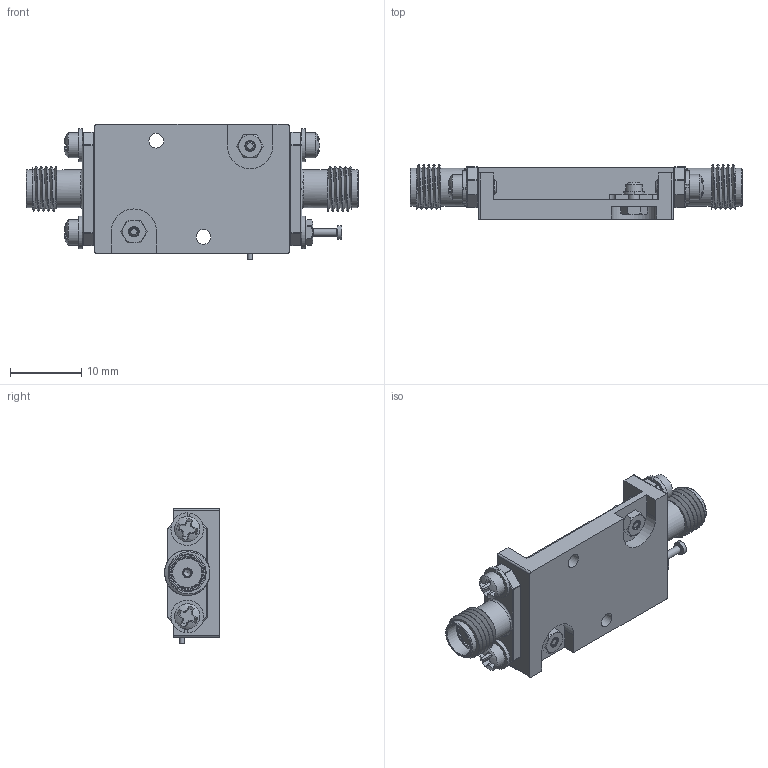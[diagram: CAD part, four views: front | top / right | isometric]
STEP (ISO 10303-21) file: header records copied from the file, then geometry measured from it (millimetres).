
FILE_DESCRIPTION (( 'STEP AP214' ), '1' );
FILE_NAME ('PE2-25-200M18-3D5-25-SFF-HERM (REV 1).STEP', '2026-08-13T16:03:41', ( '' ), ( '' ), 'SwSTEP 2.0', 'SolidWorks 2025', '' );
FILE_SCHEMA (( 'AUTOMOTIVE_DESIGN' ));
Length unit declared in the file: inch
Products named in the file (1): PE2-25-200M18-3D5-25-SFF-HERM (REV 1)
Bounding box: 46.48 x 7.67 x 18.92 mm (x, y, z)
Volume: 3184.4 mm3; surface area: 4642 mm2
Topology: 28 solids, 28 shells, 776 faces, 2492 edges, 1879 vertices
Faces by surface type: plane 382, cylinder 174, cone 71, torus 66, sphere 63, bspline 20
Full cylindrical faces by diameter (mm): 0.305 x4, 0.508 x2, 0.635 x2, 0.711 x1, 0.762 x2, 1.016 x2, 1.067 x1, 1.18 x6, 1.27 x2, 1.295 x1, 1.524 x8, 1.575 x2, 1.702 x2, 1.93 x4, 2.057 x5, 2.184 x8, 2.286 x2, 2.591 x4, 2.896 x2, 3.175 x1, 3.302 x2, 3.556 x3, 4.191 x4, 4.597 x2, 5.283 x4
Entity records: 42172 total; most frequent: CARTESIAN_POINT 10969, ORIENTED_EDGE 4514, DIRECTION 4087, EDGE_CURVE 2257, VERTEX_POINT 1855, AXIS2_PLACEMENT_3D 1476, VECTOR 1135, LINE 1135
